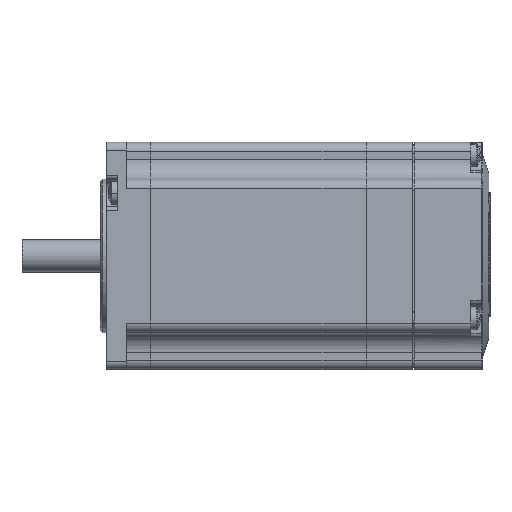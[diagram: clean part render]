
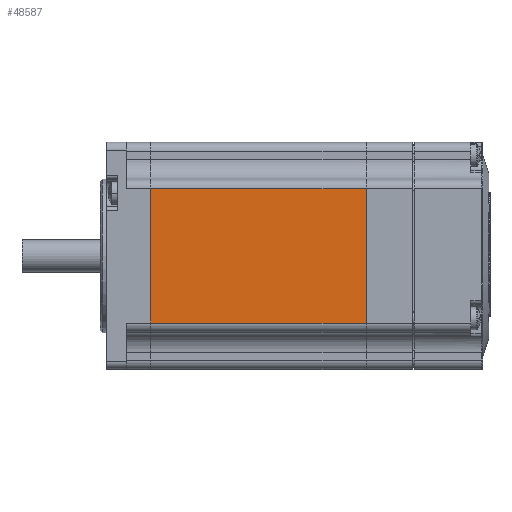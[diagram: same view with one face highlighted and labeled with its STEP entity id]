
A CAD part, top view. The second image highlights one B-rep face of the part: STEP entity #48587.
In plain terms, the highlighted planar face has unit normal (0, 0, 1).
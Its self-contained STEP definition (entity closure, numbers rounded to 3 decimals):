
#91 = EDGE_LOOP ( 'NONE', ( #101815, #64463, #46210, #23573 ) ) ;
#4700 = CARTESIAN_POINT ( 'NONE',  ( 0., -11.5, 56.4 ) ) ;
#7352 = EDGE_CURVE ( 'NONE', #51281, #106911, #11143, .T. ) ;
#8959 = LINE ( 'NONE', #86132, #80238 ) ;
#11143 = LINE ( 'NONE', #101506, #85004 ) ;
#16478 = VERTEX_POINT ( 'NONE', #85881 ) ;
#21644 = VERTEX_POINT ( 'NONE', #34229 ) ;
#23573 = ORIENTED_EDGE ( 'NONE', *, *, #7352, .T. ) ;
#24363 = CARTESIAN_POINT ( 'NONE',  ( 0., -44.9, 56.4 ) ) ;
#27089 = EDGE_CURVE ( 'NONE', #21644, #51281, #8959, .T. ) ;
#34229 = CARTESIAN_POINT ( 'NONE',  ( 53.5, -11.5, 56.4 ) ) ;
#37847 = DIRECTION ( 'NONE',  ( -1., 0., 0. ) ) ;
#46210 = ORIENTED_EDGE ( 'NONE', *, *, #27089, .T. ) ;
#46755 = LINE ( 'NONE', #71711, #86353 ) ;
#48587 = ADVANCED_FACE ( 'NONE', ( #71871 ), #105674, .F. ) ;
#51281 = VERTEX_POINT ( 'NONE', #4700 ) ;
#55658 = EDGE_CURVE ( 'NONE', #21644, #16478, #81051, .T. ) ;
#59813 = VECTOR ( 'NONE', #92048, 1000. ) ;
#60721 = AXIS2_PLACEMENT_3D ( 'NONE', #88006, #62525, #79876 ) ;
#62327 = EDGE_CURVE ( 'NONE', #16478, #106911, #46755, .T. ) ;
#62525 = DIRECTION ( 'NONE',  ( 0., 0., -1. ) ) ;
#64463 = ORIENTED_EDGE ( 'NONE', *, *, #55658, .F. ) ;
#71711 = CARTESIAN_POINT ( 'NONE',  ( -21.5, -44.9, 56.4 ) ) ;
#71871 = FACE_OUTER_BOUND ( 'NONE', #91, .T. ) ;
#79876 = DIRECTION ( 'NONE',  ( 1., 0., 0. ) ) ;
#80238 = VECTOR ( 'NONE', #99182, 1000. ) ;
#81051 = LINE ( 'NONE', #109014, #59813 ) ;
#85004 = VECTOR ( 'NONE', #93752, 1000. ) ;
#85881 = CARTESIAN_POINT ( 'NONE',  ( 53.5, -44.9, 56.4 ) ) ;
#86132 = CARTESIAN_POINT ( 'NONE',  ( -21.5, -11.5, 56.4 ) ) ;
#86353 = VECTOR ( 'NONE', #37847, 1000. ) ;
#88006 = CARTESIAN_POINT ( 'NONE',  ( 53.5, -54.4, 56.4 ) ) ;
#92048 = DIRECTION ( 'NONE',  ( 0., -1., 0. ) ) ;
#93752 = DIRECTION ( 'NONE',  ( 0., -1., 0. ) ) ;
#99182 = DIRECTION ( 'NONE',  ( -1., 0., 0. ) ) ;
#101506 = CARTESIAN_POINT ( 'NONE',  ( 0., -54.4, 56.4 ) ) ;
#101815 = ORIENTED_EDGE ( 'NONE', *, *, #62327, .F. ) ;
#105674 = PLANE ( 'NONE',  #60721 ) ;
#106911 = VERTEX_POINT ( 'NONE', #24363 ) ;
#109014 = CARTESIAN_POINT ( 'NONE',  ( 53.5, -54.4, 56.4 ) ) ;
